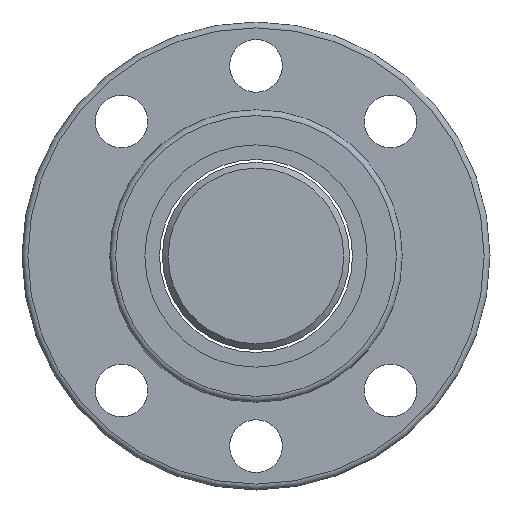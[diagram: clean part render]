
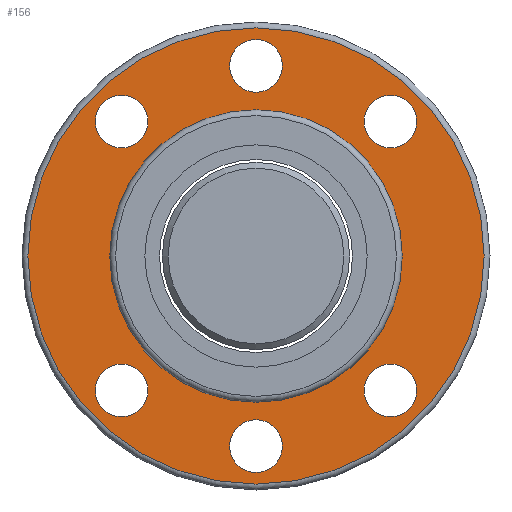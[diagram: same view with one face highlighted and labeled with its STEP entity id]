
A CAD part, left-side view. The second image highlights one B-rep face of the part: STEP entity #156.
In plain terms, the highlighted planar face has unit normal (-1, 0, 0).
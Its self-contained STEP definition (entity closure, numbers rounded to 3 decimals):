
#118=PLANE('',#562);
#131=FACE_OUTER_BOUND('',#300,.T.);
#156=ADVANCED_FACE('',(#220,#221,#222,#223,#224,#225,#226,#131),#118,.T.);
#220=FACE_BOUND('',#293,.T.);
#221=FACE_BOUND('',#294,.T.);
#222=FACE_BOUND('',#295,.T.);
#223=FACE_BOUND('',#296,.T.);
#224=FACE_BOUND('',#297,.T.);
#225=FACE_BOUND('',#298,.T.);
#226=FACE_BOUND('',#299,.T.);
#293=EDGE_LOOP('',(#367));
#294=EDGE_LOOP('',(#368));
#295=EDGE_LOOP('',(#369));
#296=EDGE_LOOP('',(#370));
#297=EDGE_LOOP('',(#371));
#298=EDGE_LOOP('',(#372));
#299=EDGE_LOOP('',(#373));
#300=EDGE_LOOP('',(#374));
#367=ORIENTED_EDGE('',*,*,#456,.F.);
#368=ORIENTED_EDGE('',*,*,#457,.F.);
#369=ORIENTED_EDGE('',*,*,#458,.F.);
#370=ORIENTED_EDGE('',*,*,#459,.F.);
#371=ORIENTED_EDGE('',*,*,#460,.F.);
#372=ORIENTED_EDGE('',*,*,#461,.F.);
#373=ORIENTED_EDGE('',*,*,#462,.T.);
#374=ORIENTED_EDGE('',*,*,#455,.F.);
#418=VERTEX_POINT('',#793);
#419=VERTEX_POINT('',#796);
#420=VERTEX_POINT('',#798);
#421=VERTEX_POINT('',#800);
#422=VERTEX_POINT('',#802);
#423=VERTEX_POINT('',#804);
#424=VERTEX_POINT('',#806);
#425=VERTEX_POINT('',#808);
#455=EDGE_CURVE('',#418,#418,#492,.T.);
#456=EDGE_CURVE('',#419,#419,#493,.T.);
#457=EDGE_CURVE('',#420,#420,#494,.T.);
#458=EDGE_CURVE('',#421,#421,#495,.T.);
#459=EDGE_CURVE('',#422,#422,#496,.T.);
#460=EDGE_CURVE('',#423,#423,#497,.T.);
#461=EDGE_CURVE('',#424,#424,#498,.T.);
#462=EDGE_CURVE('',#425,#425,#499,.T.);
#492=CIRCLE('',#553,39.);
#493=CIRCLE('',#555,4.5);
#494=CIRCLE('',#556,4.5);
#495=CIRCLE('',#557,4.5);
#496=CIRCLE('',#558,4.5);
#497=CIRCLE('',#559,4.5);
#498=CIRCLE('',#560,4.5);
#499=CIRCLE('',#561,25.);
#553=AXIS2_PLACEMENT_3D('',#792,#676,#677);
#555=AXIS2_PLACEMENT_3D('',#795,#680,#681);
#556=AXIS2_PLACEMENT_3D('',#797,#682,#683);
#557=AXIS2_PLACEMENT_3D('',#799,#684,#685);
#558=AXIS2_PLACEMENT_3D('',#801,#686,#687);
#559=AXIS2_PLACEMENT_3D('',#803,#688,#689);
#560=AXIS2_PLACEMENT_3D('',#805,#690,#691);
#561=AXIS2_PLACEMENT_3D('',#807,#692,#693);
#562=AXIS2_PLACEMENT_3D('',#809,#694,#695);
#676=DIRECTION('',(1.,0.,0.));
#677=DIRECTION('',(0.,0.,-1.));
#680=DIRECTION('',(-1.,0.,0.));
#681=DIRECTION('',(0.,0.,1.));
#682=DIRECTION('',(-1.,0.,0.));
#683=DIRECTION('',(0.,0.,1.));
#684=DIRECTION('',(-1.,0.,0.));
#685=DIRECTION('',(0.,0.,1.));
#686=DIRECTION('',(-1.,0.,0.));
#687=DIRECTION('',(0.,0.,1.));
#688=DIRECTION('',(-1.,0.,0.));
#689=DIRECTION('',(0.,0.,1.));
#690=DIRECTION('',(-1.,0.,0.));
#691=DIRECTION('',(0.,0.,1.));
#692=DIRECTION('',(1.,0.,0.));
#693=DIRECTION('',(0.,0.,-1.));
#694=DIRECTION('',(-1.,0.,0.));
#695=DIRECTION('',(0.,0.,1.));
#792=CARTESIAN_POINT('',(-27.,0.,0.));
#793=CARTESIAN_POINT('',(-27.,0.,-39.));
#795=CARTESIAN_POINT('',(-27.,0.,-32.5));
#796=CARTESIAN_POINT('',(-27.,0.,-28.));
#797=CARTESIAN_POINT('',(-27.,0.,32.5));
#798=CARTESIAN_POINT('',(-27.,0.,37.));
#799=CARTESIAN_POINT('',(-27.,22.981,-22.981));
#800=CARTESIAN_POINT('',(-27.,22.981,-18.481));
#801=CARTESIAN_POINT('',(-27.,-22.981,-22.981));
#802=CARTESIAN_POINT('',(-27.,-22.981,-18.481));
#803=CARTESIAN_POINT('',(-27.,-22.981,22.981));
#804=CARTESIAN_POINT('',(-27.,-22.981,27.481));
#805=CARTESIAN_POINT('',(-27.,22.981,22.981));
#806=CARTESIAN_POINT('',(-27.,22.981,27.481));
#807=CARTESIAN_POINT('',(-27.,0.,0.));
#808=CARTESIAN_POINT('',(-27.,0.,-25.));
#809=CARTESIAN_POINT('',(-27.,32.,0.));
